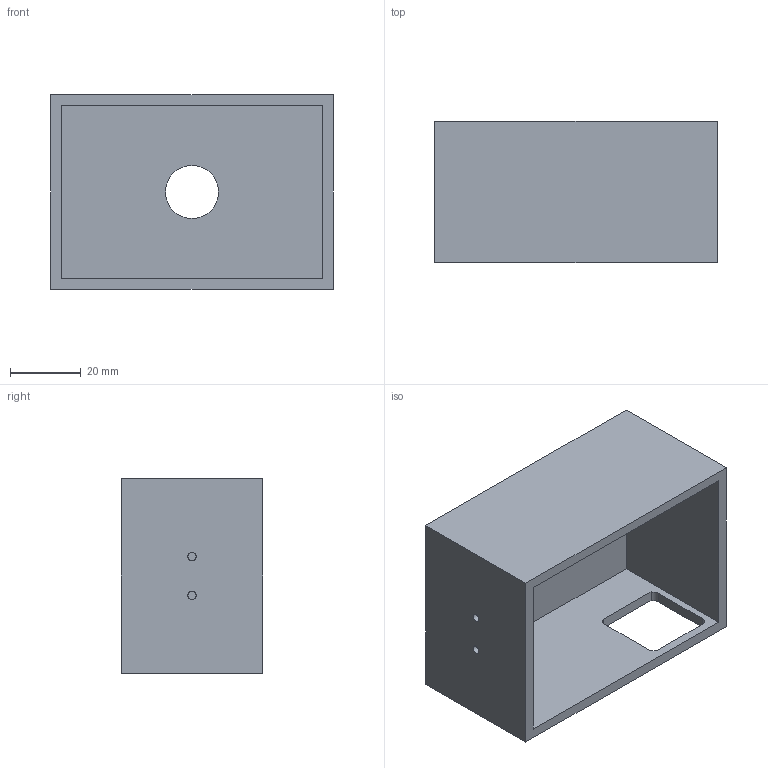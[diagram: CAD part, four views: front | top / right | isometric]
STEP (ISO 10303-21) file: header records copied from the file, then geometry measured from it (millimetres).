
FILE_DESCRIPTION(('Open CASCADE Model'),'2;1');
FILE_NAME('Open CASCADE Shape Model','2026-11-24T19:57:40',('Author'),( 'Open CASCADE'),'Open CASCADE STEP processor 7.8','Open CASCADE 7.8' ,'Unknown');
FILE_SCHEMA(('AUTOMOTIVE_DESIGN { 1 0 10303 214 1 1 1 1 }'));
Length unit declared in the file: millimetre
Products named in the file (1): Open CASCADE STEP translator 7.8 174
Bounding box: 80 x 40 x 55 mm (x, y, z)
Volume: 39906.2 mm3; surface area: 27847.4 mm2
Topology: 1 solids, 1 shells, 24 faces, 63 edges, 42 vertices
Faces by surface type: plane 17, cylinder 7
Full cylindrical faces by diameter (mm): 2.3 x2, 15 x1
Entity records: 1583 total; most frequent: CARTESIAN_POINT 259, DIRECTION 250, LINE 158, VECTOR 158, ORIENTED_EDGE 126, PCURVE 126, DEFINITIONAL_REPRESENTATION 126, EDGE_CURVE 63
